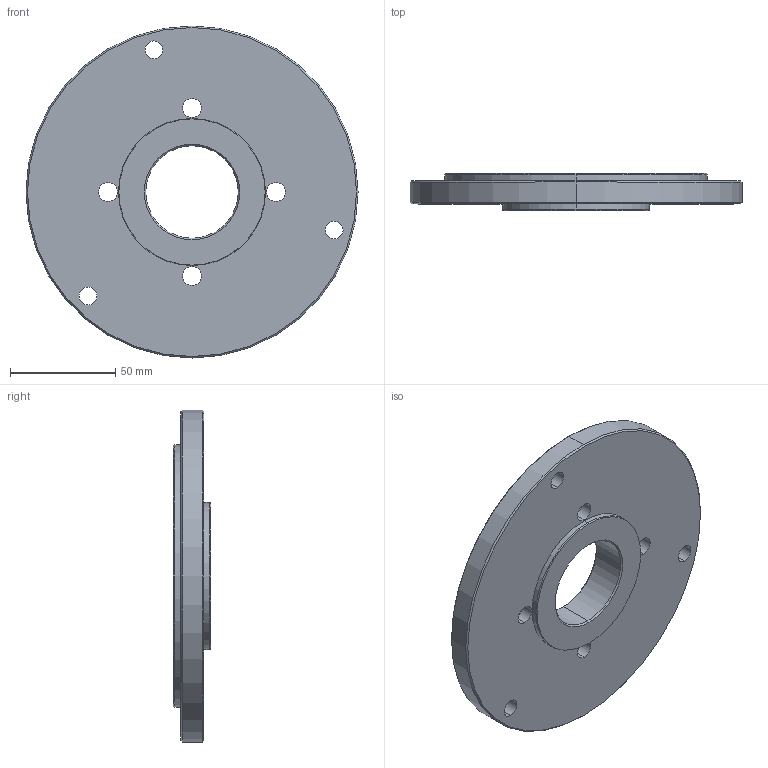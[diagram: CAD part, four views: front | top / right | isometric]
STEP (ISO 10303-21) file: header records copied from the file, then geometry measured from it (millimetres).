
FILE_DESCRIPTION (( 'STEP AP203' ), '1' );
FILE_NAME ('AD360150-160-Adapter-für-SPF-IUGO-160.STEP', '2019-09-10T14:27:56', ( '' ), ( '' ), 'SwSTEP 2.0', 'SolidWorks 2019', '' );
FILE_SCHEMA (( 'CONFIG_CONTROL_DESIGN' ));
Length unit declared in the file: millimetre
Products named in the file (1): AD360150-160-Adapter-f黵-SPF-IUGO-160
Bounding box: 158 x 17.7 x 158 mm (x, y, z)
Volume: 234222.5 mm3; surface area: 47856.5 mm2
Topology: 1 solids, 1 shells, 50 faces, 114 edges, 72 vertices
Faces by surface type: cylinder 30, cone 12, plane 8
Entity records: 1543 total; most frequent: DIRECTION 288, CARTESIAN_POINT 237, ORIENTED_EDGE 228, AXIS2_PLACEMENT_3D 123, EDGE_CURVE 114, EDGE_LOOP 72, VERTEX_POINT 72, CIRCLE 72
